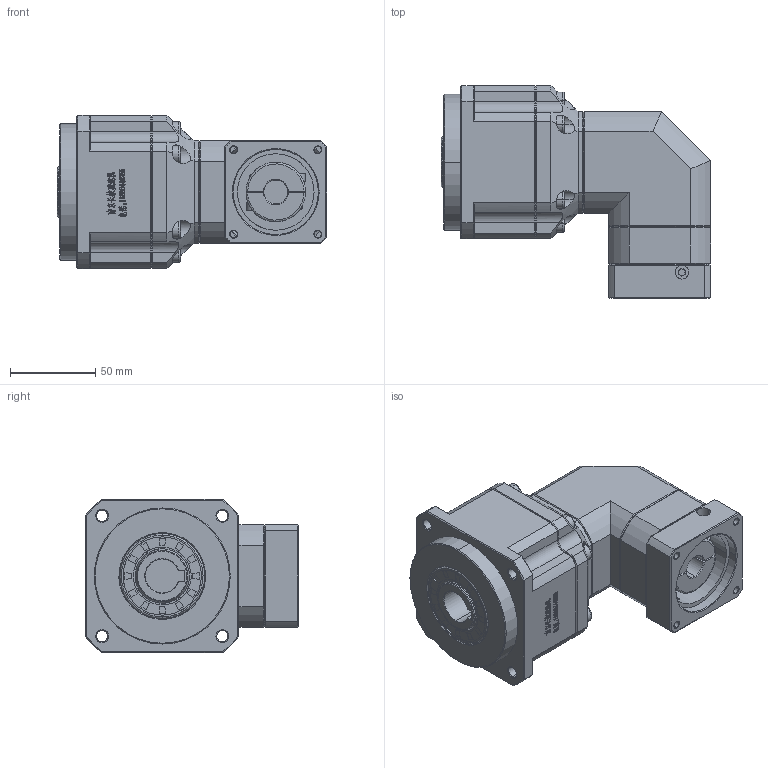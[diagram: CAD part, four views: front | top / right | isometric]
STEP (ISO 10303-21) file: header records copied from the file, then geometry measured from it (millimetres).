
FILE_DESCRIPTION (( 'STEP AP214' ), '1' );
FILE_NAME ('ZPBR090-K20-L2-P1-14-50-70-M5.step', '2024-06-07T18:40:23', ( 'Windows 蚚誧' ), ( 'Organization' ), 'SwSTEP 2.0', 'SolidWorks 2016', '' );
FILE_SCHEMA (( 'AUTOMOTIVE_DESIGN' ));
Length unit declared in the file: millimetre
Products named in the file (1): ZPBR090-K20-L2-P1-14-50-70-M5
Bounding box: 158.5 x 125 x 90 mm (x, y, z)
Surface area: 85930.4 mm2 (no closed solid volume)
Topology: 0 solids, 30 shells, 1975 faces, 5204 edges, 3313 vertices
Faces by surface type: plane 1079, bspline 366, cylinder 256, cone 249, torus 25
Entity records: 90462 total; most frequent: CARTESIAN_POINT 40854, ORIENTED_EDGE 10372, DIRECTION 7897, EDGE_CURVE 5204, VECTOR 3333, LINE 3333, VERTEX_POINT 3313, AXIS2_PLACEMENT_3D 2282
